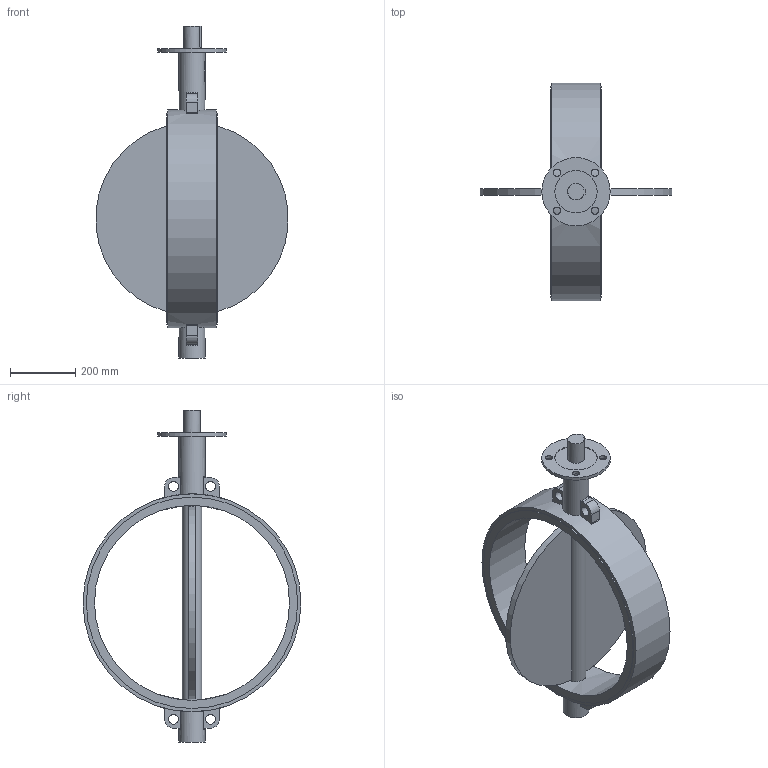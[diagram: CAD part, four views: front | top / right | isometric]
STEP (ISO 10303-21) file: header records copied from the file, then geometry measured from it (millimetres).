
FILE_DESCRIPTION(('STEP AP203'), '1');
FILE_NAME('青蜮铕 017W.YS_DN600_PN10', '', ('UNSPECIFIED'), ('UNSPECIFIED'), 'ASCON STEP Converter 1.6', 'ASCON Math Kernel', '');
FILE_SCHEMA(('CONFIG_CONTROL_DESIGN'));
Length unit declared in the file: millimetre
Bounding box: 590.27 x 670 x 1021 mm (x, y, z)
Volume: 19193189.8 mm3; surface area: 1531418.6 mm2
Topology: 1 solids, 1 shells, 89 faces, 220 edges, 146 vertices
Faces by surface type: plane 48, cylinder 37, torus 4
Full cylindrical faces by diameter (mm): 22 x4, 30 x4, 50.7 x1, 60 x1, 80 x2, 130 x1, 210 x1, 600 x1, 650 x2, 670 x1
Entity records: 4551 total; most frequent: CARTESIAN_POINT 1659, DIRECTION 452, ORIENTED_EDGE 404, EDGE_CURVE 202, AXIS2_PLACEMENT_3D 180, VERTEX_POINT 146, EDGE_LOOP 140, FACE_BOUND 107
